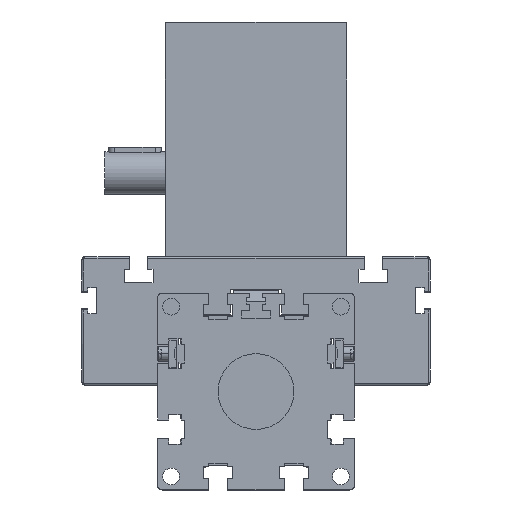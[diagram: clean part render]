
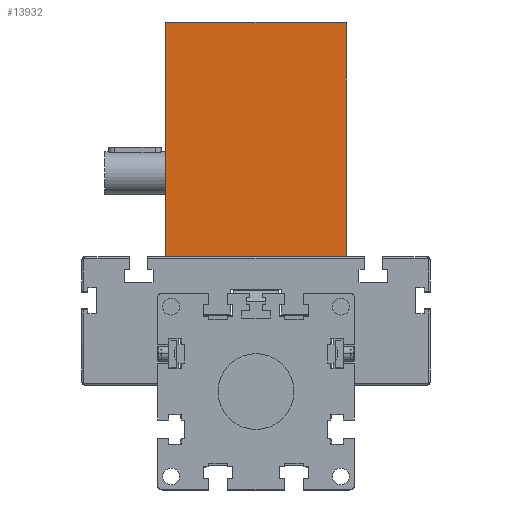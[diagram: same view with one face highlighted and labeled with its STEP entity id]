
A CAD part, front view. The second image highlights one B-rep face of the part: STEP entity #13932.
In plain terms, the highlighted planar face has unit normal (0, -1, 0) as drawn and (-1, 0, 0) by its records, which use the part's own axes.
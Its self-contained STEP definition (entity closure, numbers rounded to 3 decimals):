
#243 = VECTOR ( 'NONE', #8878, 1000. ) ;
#537 = CARTESIAN_POINT ( 'NONE',  ( -120., -59.5, 0. ) ) ;
#889 = CARTESIAN_POINT ( 'NONE',  ( -120., -60., 0. ) ) ;
#1191 = LINE ( 'NONE', #889, #13716 ) ;
#1355 = ORIENTED_EDGE ( 'NONE', *, *, #15189, .F. ) ;
#1572 = CARTESIAN_POINT ( 'NONE',  ( -120., -59.5, 154.5 ) ) ;
#3068 = VECTOR ( 'NONE', #26599, 1000. ) ;
#4284 = DIRECTION ( 'NONE',  ( 0., 1., 0. ) ) ;
#4858 = VECTOR ( 'NONE', #8146, 1000. ) ;
#4881 = VERTEX_POINT ( 'NONE', #1572 ) ;
#6680 = EDGE_CURVE ( 'NONE', #15623, #25193, #17127, .T. ) ;
#7384 = FACE_OUTER_BOUND ( 'NONE', #28777, .T. ) ;
#7828 = DIRECTION ( 'NONE',  ( 1., 0., 0. ) ) ;
#8146 = DIRECTION ( 'NONE',  ( 0., 0., -1. ) ) ;
#8878 = DIRECTION ( 'NONE',  ( 0., 0., 1. ) ) ;
#10616 = AXIS2_PLACEMENT_3D ( 'NONE', #23118, #7828, #18852 ) ;
#11041 = VERTEX_POINT ( 'NONE', #537 ) ;
#11664 = ORIENTED_EDGE ( 'NONE', *, *, #13744, .T. ) ;
#13716 = VECTOR ( 'NONE', #4284, 1000. ) ;
#13744 = EDGE_CURVE ( 'NONE', #11041, #4881, #24775, .T. ) ;
#13932 = ADVANCED_FACE ( 'NONE', ( #7384 ), #27683, .F. ) ;
#14424 = EDGE_CURVE ( 'NONE', #4881, #15623, #24386, .T. ) ;
#14768 = CARTESIAN_POINT ( 'NONE',  ( -120., 59.5, 0. ) ) ;
#15189 = EDGE_CURVE ( 'NONE', #11041, #25193, #1191, .T. ) ;
#15367 = ORIENTED_EDGE ( 'NONE', *, *, #6680, .T. ) ;
#15623 = VERTEX_POINT ( 'NONE', #26046 ) ;
#16079 = CARTESIAN_POINT ( 'NONE',  ( -120., -59.5, 0. ) ) ;
#16597 = ORIENTED_EDGE ( 'NONE', *, *, #14424, .T. ) ;
#17127 = LINE ( 'NONE', #14768, #4858 ) ;
#17768 = CARTESIAN_POINT ( 'NONE',  ( -120., -60., 154.5 ) ) ;
#18852 = DIRECTION ( 'NONE',  ( 0., 0., -1. ) ) ;
#23118 = CARTESIAN_POINT ( 'NONE',  ( -120., -60., 0. ) ) ;
#24386 = LINE ( 'NONE', #17768, #3068 ) ;
#24775 = LINE ( 'NONE', #16079, #243 ) ;
#25193 = VERTEX_POINT ( 'NONE', #27133 ) ;
#26046 = CARTESIAN_POINT ( 'NONE',  ( -120., 59.5, 154.5 ) ) ;
#26599 = DIRECTION ( 'NONE',  ( 0., 1., 0. ) ) ;
#27133 = CARTESIAN_POINT ( 'NONE',  ( -120., 59.5, 0. ) ) ;
#27683 = PLANE ( 'NONE',  #10616 ) ;
#28777 = EDGE_LOOP ( 'NONE', ( #16597, #15367, #1355, #11664 ) ) ;
